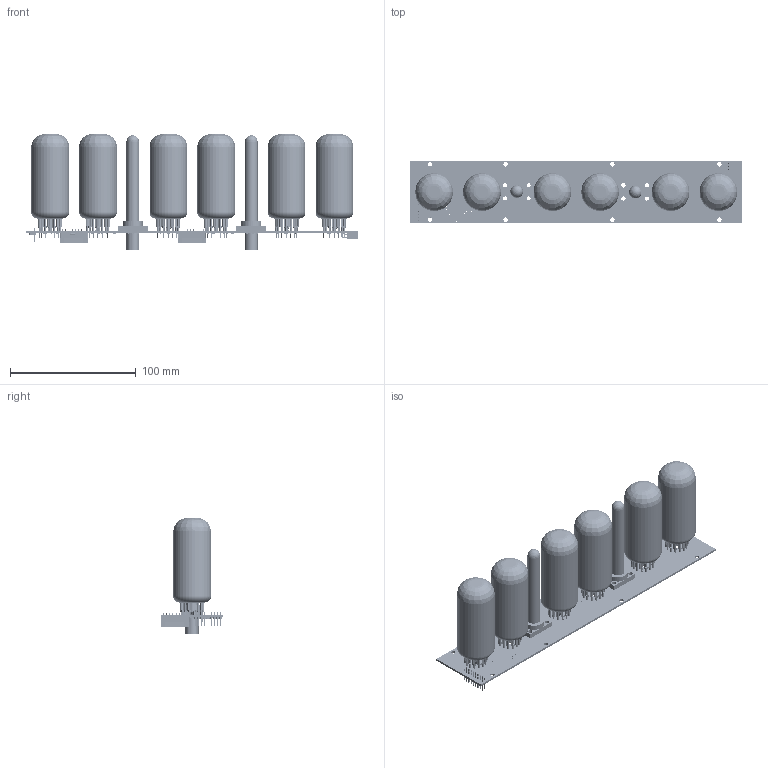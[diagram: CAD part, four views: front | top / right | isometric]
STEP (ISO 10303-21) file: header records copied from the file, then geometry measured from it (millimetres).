
FILE_DESCRIPTION(('Open CASCADE Model'),'2;1');
FILE_NAME('Open CASCADE Shape Model','2018-01-29T18:33:15',('Author'),( 'Open CASCADE'),'Open CASCADE STEP processor 6.8','Open CASCADE 6.8' ,'Unknown');
FILE_SCHEMA(('AUTOMOTIVE_DESIGN { 1 0 10303 214 1 1 1 1 }'));
Length unit declared in the file: millimetre
Products named in the file (1): PCB
Bounding box: 264 x 50 x 91.81 mm (x, y, z)
Volume: 34595.7 mm3; surface area: 101593.2 mm2
Topology: 85 solids, 2302 shells, 6956 faces, 22285 edges, 17818 vertices
Faces by surface type: plane 3667, cylinder 2867, sphere 228, bspline 158, cone 12, torus 12, revolution 12
Full cylindrical faces by diameter (mm): 0.9 x137, 1.6 x78, 3.5 x16, 5.1 x6
Entity records: 274321 total; most frequent: CARTESIAN_POINT 59094, DIRECTION 41721, ORIENTED_EDGE 32954, EDGE_CURVE 22025, VERTEX_POINT 17818, LINE 14899, VECTOR 14899, AXIS2_PLACEMENT_3D 13405
